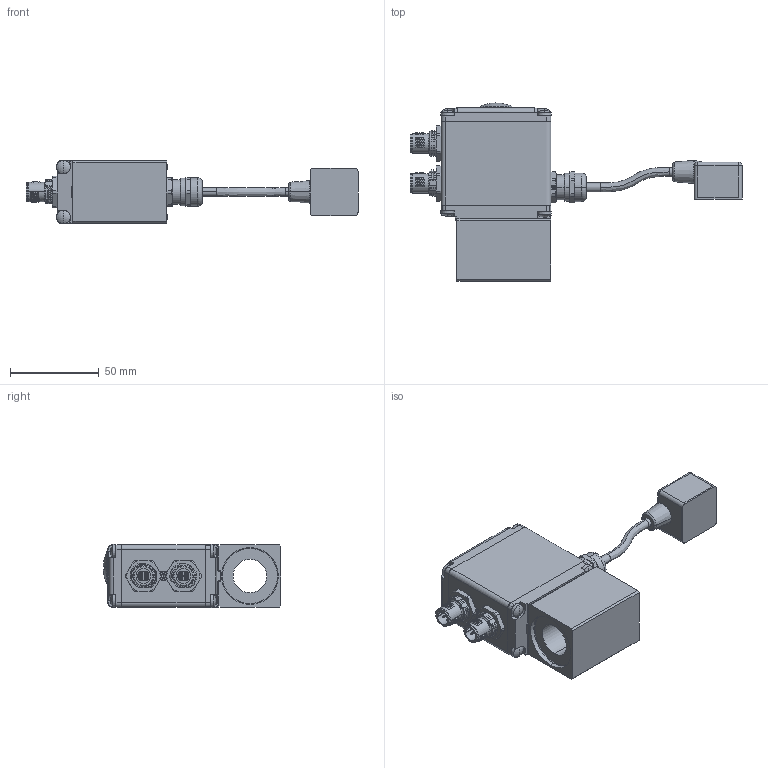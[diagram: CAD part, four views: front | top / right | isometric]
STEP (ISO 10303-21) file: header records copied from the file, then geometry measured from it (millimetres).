
FILE_DESCRIPTION (( 'STEP AP214' ), '1' );
FILE_NAME ('ME35_19x50-...C.STEP', '2014-04-03T08:46:40', ( '' ), ( '' ), 'SwSTEP 2.0', 'SolidWorks 2012', '' );
FILE_SCHEMA (( 'AUTOMOTIVE_DESIGN' ));
Length unit declared in the file: millimetre
Products named in the file (1): ME35_19x50-...C
Bounding box: 187.3 x 100.39 x 35.9 mm (x, y, z)
Volume: 141205.5 mm3; surface area: 51147.9 mm2
Topology: 4 solids, 4 shells, 2585 faces, 7042 edges, 4536 vertices
Faces by surface type: plane 1401, cylinder 716, torus 186, bspline 132, cone 118, sphere 32
Entity records: 95000 total; most frequent: CARTESIAN_POINT 26261, ORIENTED_EDGE 14052, DIRECTION 12341, EDGE_CURVE 7026, VERTEX_POINT 4536, LINE 4463, VECTOR 4463, AXIS2_PLACEMENT_3D 3939
